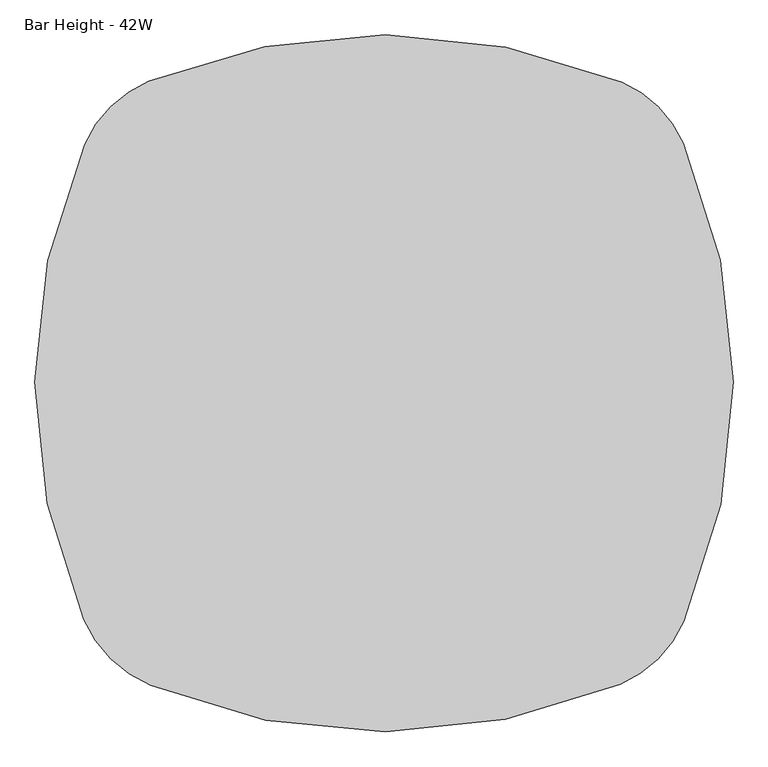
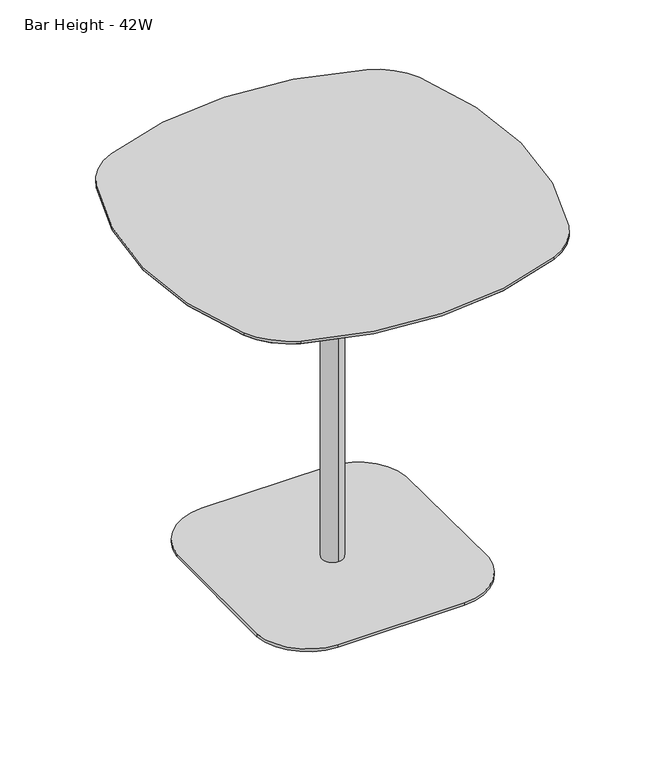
"""IFC4 building model written with IfcOpenShell, lengths in millimetres: furniture geometry, Steelcase Coalesse - Enea Lottus - Table - Cafe : Bar Height - 42W."""

import ifcopenshell
import ifcopenshell.guid

model = None  # the IFC model being written
_history = None  # IfcOwnerHistory: only IFC2X3 demands one
_inside = {}  # id of a spatial element -> (the spatial element, [elements in it])
_under = {}  # id of a project, library or spatial element -> (it, [spatial elements below it])
_declared = {}  # id of a project -> (the project, [libraries it declares])
_typed = {}  # id of a type object -> (the type object, [elements of that type])
_made_of = {}  # id of a material, layer set ... -> (it, [elements and type objects made of it])


def new_model(schema):
    """Start an empty IFC model of exactly this schema.

    Asked for "IFC4X3", IfcOpenShell would pick the latest addendum, in which some entities
    have other attributes; the version numbers below select the first issue.
    IFC2X3 requires an IfcOwnerHistory on every rooted entity: one is made here for all.
    """
    global model, _history
    if schema == "IFC4X3":
        model = ifcopenshell.file(schema_version=(4, 3, 0, 0))
    else:
        model = ifcopenshell.file(schema=schema)
    _inside.clear()
    _under.clear()
    _declared.clear()
    _typed.clear()
    _made_of.clear()
    _history = None
    if model.schema == "IFC2X3":
        org = make("IfcOrganization", Name="unknown")
        user = make(
            "IfcPersonAndOrganization",
            ThePerson=make("IfcPerson", FamilyName="unknown"),
            TheOrganization=org,
        )
        app = make(
            "IfcApplication",
            ApplicationDeveloper=org,
            Version="unknown",
            ApplicationFullName="unknown",
            ApplicationIdentifier="unknown",
        )
        _history = make(
            "IfcOwnerHistory",
            OwningUser=user,
            OwningApplication=app,
            ChangeAction="ADDED",
            CreationDate=0,
        )
    return model


def make(cls, **values):
    """One entity of the class cls with the attributes given. An attribute that is None is left unset."""
    return model.create_entity(
        cls, **{name: value for name, value in values.items() if value is not None}
    )


def rooted(cls, **values):
    """An entity with a GlobalId (a new one), such as an element, a storey or a relation."""
    return make(cls, GlobalId=ifcopenshell.guid.new(), OwnerHistory=_history, **values)


def si_unit(unit_type, name, prefix=None):
    """IfcSIUnit, for example si_unit("LENGTHUNIT", "METRE", prefix="MILLI")."""
    return make("IfcSIUnit", UnitType=unit_type, Prefix=prefix, Name=name)


def assignment(units):
    """IfcUnitAssignment: the units of a project."""
    return None if units is None else make("IfcUnitAssignment", Units=units)


def point(xyz):
    """IfcCartesianPoint."""
    return None if xyz is None else make("IfcCartesianPoint", Coordinates=xyz)


def direction(xyz):
    """IfcDirection."""
    return None if xyz is None else make("IfcDirection", DirectionRatios=xyz)


def frame(location, z_axis=None, x_axis=None):
    """IfcAxis2Placement3D, a coordinate frame: its origin and axes. An axis left out is left unset."""
    return make(
        "IfcAxis2Placement3D",
        Location=point(location),
        Axis=direction(z_axis),
        RefDirection=direction(x_axis),
    )


def frame_2d(location, x_axis=None):
    """IfcAxis2Placement2D, a coordinate frame in the plane: its origin and x axis."""
    return make(
        "IfcAxis2Placement2D", Location=point(location), RefDirection=direction(x_axis)
    )


def origin():
    """The frame at (0, 0, 0) with its axes left unset."""
    return frame((0.0, 0.0, 0.0))


def origin_with_axes():
    """The frame at (0, 0, 0) with the z axis (0, 0, 1) and the x axis (1, 0, 0) written out."""
    return frame((0.0, 0.0, 0.0), z_axis=(0.0, 0.0, 1.0), x_axis=(1.0, 0.0, 0.0))


def place(relative_to, where):
    """IfcLocalPlacement: puts the frame where relative to a parent placement (None: the world)."""
    return make(
        "IfcLocalPlacement", PlacementRelTo=relative_to, RelativePlacement=where
    )


def context(
    kind, dimensions, precision=None, world=None, true_north=None, identifier=None
):
    """IfcGeometricRepresentationContext, for example the 3D "Model" context."""
    return make(
        "IfcGeometricRepresentationContext",
        ContextIdentifier=identifier,
        ContextType=kind,
        CoordinateSpaceDimension=dimensions,
        Precision=precision,
        WorldCoordinateSystem=world,
        TrueNorth=true_north,
    )


def project(units=None, contexts=None):
    """IfcProject with its units and contexts."""
    return rooted(
        "IfcProject",
        Name="project",
        RepresentationContexts=contexts,
        UnitsInContext=assignment(units),
    )


def spatial(cls, under=None, at=None, **own):
    """A site, building, storey or space (cls), placed at a placement, below another one or the project."""
    s = rooted(cls, ObjectPlacement=at, **own)
    if under is not None:
        _under.setdefault(under.id(), (under, []))[1].append(s)
    return s


def polyline(points):
    """IfcPolyline through the points."""
    return make("IfcPolyline", Points=[point(p) for p in points])


def circle_curve(where, radius):
    """IfcCircle in the frame where."""
    return make("IfcCircle", Position=where, Radius=radius)


def trimmed(basis, trim1, trim2, sense, master):
    """IfcTrimmedCurve: the piece of a basis curve between two trims."""
    return make(
        "IfcTrimmedCurve",
        BasisCurve=basis,
        Trim1=trim1,
        Trim2=trim2,
        SenseAgreement=sense,
        MasterRepresentation=master,
    )


def segment(curve, same_sense, transition):
    """IfcCompositeCurveSegment."""
    return make(
        "IfcCompositeCurveSegment",
        Transition=transition,
        SameSense=same_sense,
        ParentCurve=curve,
    )


def composite_curve(segments, self_intersect=None):
    """IfcCompositeCurve: segments joined end to end."""
    return make("IfcCompositeCurve", Segments=segments, SelfIntersect=self_intersect)


def outline(outer, holes=None, kind="AREA"):
    """IfcArbitraryClosedProfileDef: a profile drawn as a closed curve; with holes, ...WithVoids."""
    if holes is None:
        return make("IfcArbitraryClosedProfileDef", ProfileType=kind, OuterCurve=outer)
    return make(
        "IfcArbitraryProfileDefWithVoids",
        ProfileType=kind,
        OuterCurve=outer,
        InnerCurves=holes,
    )


def extrude(swept, where, along, depth):
    """IfcExtrudedAreaSolid: the profile swept, set in the frame where, extruded along a direction by depth."""
    return make(
        "IfcExtrudedAreaSolid",
        SweptArea=swept,
        Position=where,
        ExtrudedDirection=direction(along),
        Depth=depth,
    )


def shape(context_of_items, identifier, shape_type, items):
    """IfcShapeRepresentation: the items that make up one representation, for example the "Body"."""
    return make(
        "IfcShapeRepresentation",
        ContextOfItems=context_of_items,
        RepresentationIdentifier=identifier,
        RepresentationType=shape_type,
        Items=items,
    )


def source(mapping_origin, context_of_items, identifier, shape_type, items):
    """IfcRepresentationMap: a shape defined once, which mapped items show again and again."""
    return make(
        "IfcRepresentationMap",
        MappingOrigin=mapping_origin,
        MappedRepresentation=shape(context_of_items, identifier, shape_type, items),
    )


def transform(
    local_origin,
    x_axis=None,
    y_axis=None,
    z_axis=None,
    scale=None,
    scale2=None,
    scale3=None,
    uniform=True,
):
    """IfcCartesianTransformationOperator3D, or its non-uniform kind. x_axis, y_axis, z_axis: its Axis1, 2, 3."""
    if uniform:
        return make(
            "IfcCartesianTransformationOperator3D",
            Axis1=direction(x_axis),
            Axis2=direction(y_axis),
            LocalOrigin=point(local_origin),
            Scale=scale,
            Axis3=direction(z_axis),
        )
    return make(
        "IfcCartesianTransformationOperator3DnonUniform",
        Axis1=direction(x_axis),
        Axis2=direction(y_axis),
        LocalOrigin=point(local_origin),
        Scale=scale,
        Axis3=direction(z_axis),
        Scale2=scale2,
        Scale3=scale3,
    )


def mapped(mapping_source, mapping_target):
    """IfcMappedItem: shows the shape of a source again, moved by a transform."""
    return make(
        "IfcMappedItem", MappingSource=mapping_source, MappingTarget=mapping_target
    )


def made_of(thing, what):
    """Note that an element or type object is made of a material, layer set ...; save() writes the relation."""
    if what is not None:
        _made_of.setdefault(what.id(), (what, []))[1].append(thing)
    return thing


def element(
    cls,
    number,
    at=None,
    inside=None,
    cuts=None,
    type_object=None,
    material=None,
    context=None,
    identifier="Body",
    shape_type=None,
    held_by="IfcProductDefinitionShape",
    body=None,
    shapes=None,
    **own,
):
    """One element of the class cls, such as IfcWall. Its Tag is "e" and its number.

    at: its placement. inside: the storey or other place that contains it. cuts: it is an
    opening in that element (IfcRelVoidsElement). A single representation is given by context,
    identifier, shape_type and body (its items); several are given by shapes. held_by: the class
    of the entity that holds the representations. save() writes the other relations.
    """
    e = rooted(cls, Tag="e%d" % number, ObjectPlacement=at, **own)
    if body is not None:
        shapes = [shape(context, identifier, shape_type, body)]
    if shapes is not None:
        e.Representation = make(held_by, Representations=shapes)
    if inside is not None:
        _inside.setdefault(inside.id(), (inside, []))[1].append(e)
    if cuts is not None:
        rooted(
            "IfcRelVoidsElement", RelatingBuildingElement=cuts, RelatedOpeningElement=e
        )
    if type_object is not None:
        _typed.setdefault(type_object.id(), (type_object, []))[1].append(e)
    return made_of(e, material)


def aggregate(whole, parts):
    """IfcRelAggregates: a whole, such as a stair, and the parts it consists of."""
    return rooted("IfcRelAggregates", RelatingObject=whole, RelatedObjects=parts)


def save(model, path):
    """Write the relations noted so far, then the file.

    IfcRelAggregates (storeys below a building ...), IfcRelContainedInSpatialStructure (elements
    in a storey), IfcRelDefinesByType, IfcRelAssociatesMaterial and IfcRelDeclares: one each for
    every whole, place, type object, material and project.
    """
    for whole, parts in _under.values():
        aggregate(whole, parts)
    for where, things in _inside.values():
        rooted(
            "IfcRelContainedInSpatialStructure",
            RelatedElements=things,
            RelatingStructure=where,
        )
    for kind, things in _typed.values():
        rooted("IfcRelDefinesByType", RelatedObjects=things, RelatingType=kind)
    for what, things in _made_of.values():
        rooted("IfcRelAssociatesMaterial", RelatedObjects=things, RelatingMaterial=what)
    for by, libraries in _declared.values():
        rooted("IfcRelDeclares", RelatingContext=by, RelatedDefinitions=libraries)
    model.write(path)


def plane_surface(at):
    """IfcPlane: the flat surface through the origin of the frame at, square to its z axis."""
    return make("IfcPlane", Position=at)


def cylinder_surface(at, radius):
    """IfcCylindricalSurface: all points at the distance radius from the z axis of the frame at."""
    return make("IfcCylindricalSurface", Position=at, Radius=radius)


def revolved_surface(curve, axis_point, axis_direction):
    """IfcSurfaceOfRevolution: the curve turned about the line through axis_point along axis_direction."""
    return make(
        "IfcSurfaceOfRevolution",
        SweptCurve=make("IfcArbitraryOpenProfileDef", ProfileType="CURVE", Curve=curve),
        AxisPosition=make("IfcAxis1Placement", Location=point(axis_point), Axis=direction(axis_direction)),
    )


def advanced_brep(points, edges, surfaces, faces):
    """IfcAdvancedBrep: a solid bounded by faces that lie on surfaces and meet in shared edges.

    An edge is (start, end): straight between two places in points (the first is 0);
    or (start, end, curve); or (start, end, curve, False) where it runs against its curve.
    A face is (place in surfaces, loops), or (place, loops, False) where it looks against
    its surface's normal. A loop lists edges by number (the first is 1), with a minus sign
    where the edge is run from its end to its start. The first loop is the outer one.
    """
    corners = [point(p) for p in points]
    vertices = [make("IfcVertexPoint", VertexGeometry=c) for c in corners]
    made = []
    for start, end, *more in edges:
        made.append(
            make(
                "IfcEdgeCurve",
                EdgeStart=vertices[start],
                EdgeEnd=vertices[end],
                EdgeGeometry=more[0] if more else make("IfcPolyline", Points=[corners[start], corners[end]]),
                SameSense=more[1] if len(more) > 1 else True,
            )
        )
    hull = []
    for where, loops, *sense in faces:
        bounds = []
        for j, loop in enumerate(loops):
            ring = [make("IfcOrientedEdge", EdgeElement=made[abs(k) - 1], Orientation=k > 0) for k in loop]
            bounds.append(
                make(
                    "IfcFaceOuterBound" if j == 0 else "IfcFaceBound",
                    Bound=make("IfcEdgeLoop", EdgeList=ring),
                    Orientation=True,
                )
            )
        hull.append(make("IfcAdvancedFace", Bounds=bounds, FaceSurface=surfaces[where], SameSense=sense[0] if sense else True))
    return make("IfcAdvancedBrep", Outer=make("IfcClosedShell", CfsFaces=hull))


def bar_height_42w_7da4a0c7(model_context):
    return source(origin(), model_context, "Body", "SolidModel", [
        advanced_brep(
        [(533.4, -563.2613798, 1030.4223999), (533.4, -503.5386202, 1030.4223999), (533.4, -356.9080839, 1051.1439789), (533.4, -709.8919161, 1051.1439789), (533.4, -533.4, 1030.4223999), (533.4, -709.8919161, 1054.0282142), (533.4, -356.9080839, 1054.0282142), (533.4, -533.4, 1054.0282142)],
        [
            (0, 1, circle_curve(frame((533.4, -533.4, 1030.4223999), z_axis=(0.0, 0.0, 1.0), x_axis=(0.0, 1.0, 0.0)), 29.8613798)),
            (1, 2),
            (2, 3, circle_curve(frame((533.4, -533.4, 1051.1439789), z_axis=(0.0, 0.0, -1.0), x_axis=(0.0, 1.0, 0.0)), 176.4919161)),
            (3, 0),
            (1, 0, circle_curve(frame((533.4, -533.4, 1030.4223999), z_axis=(0.0, 0.0, 1.0), x_axis=(0.0, 1.0, 0.0)), 29.8613798)),
            (3, 2, circle_curve(frame((533.4, -533.4, 1051.1439789), z_axis=(0.0, 0.0, -1.0), x_axis=(0.0, 1.0, 0.0)), 176.4919161)),
            (4, 1),
            (0, 4),
            (5, 6, circle_curve(frame((533.4, -533.4, 1054.0282142), z_axis=(0.0, 0.0, 1.0), x_axis=(0.0, 1.0, 0.0)), 176.4919161)),
            (6, 7),
            (7, 5),
            (6, 5, circle_curve(frame((533.4, -533.4, 1054.0282142), z_axis=(0.0, 0.0, 1.0), x_axis=(0.0, 1.0, 0.0)), 176.4919161)),
            (2, 6),
            (5, 3),
        ],
        [
            revolved_surface(polyline([(533.4, -356.9080839, 1051.1439789), (533.4, -503.5386202, 1030.4223999)]), (533.4, -533.4, 1042.225307), (0.0, 0.0, -1.0)),
            plane_surface(frame((533.4, -533.4, 1030.4223999), z_axis=(0.0, 0.0, -1.0), x_axis=(0.0, 1.0, 0.0))),
            plane_surface(frame((533.4, -533.4, 1054.0282142), z_axis=(0.0, 0.0, 1.0), x_axis=(0.0, 1.0, 0.0))),
            cylinder_surface(frame((533.4, -533.4, 1042.225307), z_axis=(0.0, 0.0, -1.0), x_axis=(0.0, 1.0, 0.0)), 176.4919161),
        ],
        [
            (0, [[1, 2, 3, 4]]),
            (0, [[5, -4, 6, -2]]),
            (1, [[7, -1, 8]]),
            (1, [[-8, -5, -7]]),
            (2, [[9, 10, 11]]),
            (2, [[12, -11, -10]]),
            (3, [[-3, 13, -9, 14]]),
            (3, [[-6, -14, -12, -13]]),
        ],
    ),
        extrude(outline(composite_curve([segment(trimmed(circle_curve(frame_2d((533.4002907, -132.0971576)), 934.4798328), [point((894.0788189, -994.1665036))], [point((176.4279712, -995.7077881))], False, "CARTESIAN"), True, "CONTINUOUS"), segment(trimmed(circle_curve(frame_2d((249.1991799, -819.6549517)), 190.5), [point((176.4279712, -995.7077881))], [point((74.2852347, -895.1225724))], False, "CARTESIAN"), True, "CONTINUOUS"), segment(trimmed(circle_curve(frame_2d((912.6618205, -533.4002059)), 913.0817982), [point((74.2852347, -895.1225724))], [point((75.6122215, -168.6176147))], False, "CARTESIAN"), True, "CONTINUOUS"), segment(trimmed(circle_curve(frame_2d((243.9625421, -241.9839555)), 183.6421804), [point((75.6122215, -168.6176147))], [point((173.954065, -72.2098009))], False, "CARTESIAN"), True, "CONTINUOUS"), segment(trimmed(circle_curve(frame_2d((533.4002422, -943.8852526)), 942.8783842), [point((173.954065, -72.2098009))], [point((896.1434301, -73.5766711))], False, "CARTESIAN"), True, "CONTINUOUS"), segment(trimmed(circle_curve(frame_2d((828.0206012, -237.0198029)), 177.0716724), [point((896.1434301, -73.5766711))], [point((990.4141681, -166.4315138))], False, "CARTESIAN"), True, "CONTINUOUS"), segment(trimmed(circle_curve(frame_2d((146.4765745, -533.2693878)), 920.2177394), [point((990.4141681, -166.4315138))], [point((991.3180264, -898.0208223))], False, "CARTESIAN"), True, "CONTINUOUS"), segment(trimmed(circle_curve(frame_2d((823.5476668, -825.5877295)), 182.7387383), [point((991.3180264, -898.0208223))], [point((894.0788189, -994.1665036))], False, "CARTESIAN"), True, "CONTINUOUS")], self_intersect=False)), frame((0.0, 0.0, 1059.247009), z_axis=(0.0, 0.0, 1.0), x_axis=(1.0, 0.0, 0.0)), (0.0, 0.0, 1.0), 7.552991),
        advanced_brep(
        [(889.1770359, -982.4505945, 1054.0282142), (181.2793852, -983.9709323, 1054.0282142), (85.9461643, -890.0913977, 1054.0282142), (87.2546942, -173.6913539, 1054.0282142), (178.795587, -83.9507406, 1054.0282142), (891.2574994, -85.2991999, 1054.0282142), (978.7669166, -171.4942732, 1054.0282142), (979.6583007, -892.986858, 1054.0282142), (894.0788189, -994.1665036, 1059.247009), (991.3180264, -898.0208223, 1059.247009), (990.4141681, -166.4315138, 1059.247009), (896.1434301, -73.5766711, 1059.247009), (173.954065, -72.2098009, 1059.247009), (75.6122215, -168.6176147, 1059.247009), (74.2852347, -895.1225724, 1059.247009), (176.4279712, -995.7077881, 1059.247009)],
        [
            (0, 1, circle_curve(frame((533.4002907, -132.0971576, 1054.0282142), z_axis=(0.0, 0.0, -1.0), x_axis=(0.385967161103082, -0.9225125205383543, 0.0)), 921.7798328)),
            (1, 2, circle_curve(frame((249.1991799, -819.6549517, 1054.0282142), z_axis=(0.0, 0.0, -1.0), x_axis=(-0.38200109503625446, -0.9241618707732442, 0.0)), 177.8)),
            (2, 3, circle_curve(frame((912.6618205, -533.4002059, 1054.0282142), z_axis=(0.0, 0.0, -1.0), x_axis=(-0.9181834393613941, -0.396155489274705, 0.0)), 900.3817982)),
            (3, 4, circle_curve(frame((243.9625421, -241.9839555, 1054.0282142), z_axis=(0.0, 0.0, -1.0), x_axis=(-0.916730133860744, 0.3995070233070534, 0.0)), 170.9421804)),
            (4, 5, circle_curve(frame((533.4002422, -943.8852526, 1054.0282142), z_axis=(0.0, 0.0, -1.0), x_axis=(-0.3812222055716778, 0.9244834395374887, 0.0)), 930.1783842)),
            (5, 6, circle_curve(frame((828.0206012, -237.0198029, 1054.0282142), z_axis=(0.0, 0.0, -1.0), x_axis=(0.3847189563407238, 0.9230337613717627, 0.0)), 164.3716724)),
            (6, 7, circle_curve(frame((146.4765745, -533.2693878, 1054.0282142), z_axis=(0.0, 0.0, -1.0), x_axis=(0.9171064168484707, 0.39864247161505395, 0.0)), 907.5177394)),
            (7, 0, circle_curve(frame((823.5476668, -825.5877295, 1054.0282142), z_axis=(0.0, 0.0, -1.0), x_axis=(0.9180886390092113, -0.3963751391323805, 0.0)), 170.0387383)),
            (8, 9, circle_curve(frame((823.5476668, -825.5877295, 1059.247009), z_axis=(0.0, 0.0, 1.0), x_axis=(0.9180886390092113, -0.3963751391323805, 0.0)), 182.7387383)),
            (9, 10, circle_curve(frame((146.4765745, -533.2693878, 1059.247009), z_axis=(0.0, 0.0, 1.0), x_axis=(0.9171064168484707, 0.39864247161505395, 0.0)), 920.2177394)),
            (10, 11, circle_curve(frame((828.0206012, -237.0198029, 1059.247009), z_axis=(0.0, 0.0, 1.0), x_axis=(0.3847189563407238, 0.9230337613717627, 0.0)), 177.0716724)),
            (11, 12, circle_curve(frame((533.4002422, -943.8852526, 1059.247009), z_axis=(0.0, 0.0, 1.0), x_axis=(-0.3812222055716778, 0.9244834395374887, 0.0)), 942.8783842)),
            (12, 13, circle_curve(frame((243.9625421, -241.9839555, 1059.247009), z_axis=(0.0, 0.0, 1.0), x_axis=(-0.916730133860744, 0.3995070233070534, 0.0)), 183.6421804)),
            (13, 14, circle_curve(frame((912.6618205, -533.4002059, 1059.247009), z_axis=(0.0, 0.0, 1.0), x_axis=(-0.9181834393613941, -0.396155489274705, 0.0)), 913.0817982)),
            (14, 15, circle_curve(frame((249.1991799, -819.6549517, 1059.247009), z_axis=(0.0, 0.0, 1.0), x_axis=(-0.38200109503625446, -0.9241618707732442, 0.0)), 190.5)),
            (15, 8, circle_curve(frame((533.4002907, -132.0971576, 1059.247009), z_axis=(0.0, 0.0, 1.0), x_axis=(0.385967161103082, -0.9225125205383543, 0.0)), 934.4798328)),
            (15, 1),
            (0, 8),
            (14, 2),
            (13, 3),
            (12, 4),
            (11, 5),
            (10, 6),
            (9, 7),
        ],
        [
            plane_surface(frame((534.0169479, -532.9919188, 1054.0282142), z_axis=(0.0, 0.0, -1.0), x_axis=(0.9225125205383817, 0.38596716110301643, 0.0))),
            plane_surface(frame((534.029242, -532.9816609, 1059.247009), z_axis=(0.0, 0.0, 1.0), x_axis=(0.9225125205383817, 0.38596716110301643, 0.0))),
            revolved_surface(polyline([(889.1770359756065, -982.4505946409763, 1054.0282142), (894.0788189, -994.1665035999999, 1059.247009)]), (533.4002907, -132.0971576, 675.2424016), (0.0, 0.0, 1.0)),
            revolved_surface(polyline([(181.27938509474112, -983.9709323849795, 1054.0282142), (176.4279712, -995.7077881, 1059.247009)]), (249.1991799, -819.6549517, 980.9650867), (0.0, 0.0, 1.0)),
            revolved_surface(polyline([(85.94616432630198, -890.0913977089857, 1054.0282142), (74.28523470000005, -895.1225724, 1059.247009)]), (912.6618205, -533.4002059, 684.0354687), (0.0, 0.0, 1.0)),
            revolved_surface(polyline([(87.25469414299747, -173.69135386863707, 1054.0282142), (75.6122215, -168.6176147, 1059.247009)]), (243.9625421, -241.9839555, 983.7831617), (0.0, 0.0, 1.0)),
            revolved_surface(polyline([(178.79558698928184, -83.95074053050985, 1054.0282142), (173.954065, -72.2098009, 1059.247009)]), (533.4002422, -943.8852526, 671.7911956), (0.0, 0.0, 1.0)),
            revolved_surface(polyline([(891.2574993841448, -85.29919981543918, 1054.0282142), (896.1434301, -73.5766711, 1059.247009)]), (828.0206012, -237.0198029, 986.4831722), (0.0, 0.0, 1.0)),
            revolved_surface(polyline([(978.7669166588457, -171.49427316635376, 1054.0282142), (990.4141681, -166.4315138, 1059.247009)]), (146.4765745, -533.2693878, 681.1031055), (0.0, 0.0, 1.0)),
            revolved_surface(polyline([(979.6583007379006, -892.9868580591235, 1054.0282142), (991.3180264, -898.0208223, 1059.247009)]), (823.5476668, -825.5877295, 984.154412), (0.0, 0.0, 1.0)),
        ],
        [
            (0, [[1, 2, 3, 4, 5, 6, 7, 8]]),
            (1, [[9, 10, 11, 12, 13, 14, 15, 16]]),
            (2, [[-16, 17, -1, 18]]),
            (3, [[-15, 19, -2, -17]]),
            (4, [[-14, 20, -3, -19]]),
            (5, [[-13, 21, -4, -20]]),
            (6, [[-12, 22, -5, -21]]),
            (7, [[-11, 23, -6, -22]]),
            (8, [[-10, 24, -7, -23]]),
            (9, [[-9, -18, -8, -24]]),
        ],
    ),
        extrude(outline(composite_curve([segment(trimmed(circle_curve(frame_2d((290.3573668, -290.3557788)), 14.5931535), [point((304.9505203, -290.3557788))], [point((275.7642134, -290.3557788))], False, "CARTESIAN"), True, "CONTINUOUS"), segment(trimmed(circle_curve(frame_2d((290.3573668, -290.3557788)), 14.5931535), [point((275.7642134, -290.3557788))], [point((304.9505203, -290.3557788))], False, "CARTESIAN"), True, "CONTINUOUS")], self_intersect=False)), origin_with_axes(), (0.0, 0.0, 1.0), 12.0681503),
        extrude(outline(composite_curve([segment(trimmed(circle_curve(frame_2d((776.4426332, -290.3557788)), 14.5931535), [point((791.0357866, -290.3557788))], [point((761.8494797, -290.3557788))], False, "CARTESIAN"), True, "CONTINUOUS"), segment(trimmed(circle_curve(frame_2d((776.4426332, -290.3557788)), 14.5931535), [point((761.8494797, -290.3557788))], [point((791.0357866, -290.3557788))], False, "CARTESIAN"), True, "CONTINUOUS")], self_intersect=False)), origin_with_axes(), (0.0, 0.0, 1.0), 12.0681503),
        extrude(outline(composite_curve([segment(trimmed(circle_curve(frame_2d((290.3573668, -776.4442212)), 14.5931535), [point((304.9505203, -776.4442212))], [point((275.7642134, -776.4442212))], False, "CARTESIAN"), True, "CONTINUOUS"), segment(trimmed(circle_curve(frame_2d((290.3573668, -776.4442212)), 14.5931535), [point((275.7642134, -776.4442212))], [point((304.9505203, -776.4442212))], False, "CARTESIAN"), True, "CONTINUOUS")], self_intersect=False)), origin_with_axes(), (0.0, 0.0, 1.0), 12.0681503),
        extrude(outline(composite_curve([segment(trimmed(circle_curve(frame_2d((776.4426332, -776.4442212)), 14.5931535), [point((791.0357866, -776.4442212))], [point((761.8494797, -776.4442212))], False, "CARTESIAN"), True, "CONTINUOUS"), segment(trimmed(circle_curve(frame_2d((776.4426332, -776.4442212)), 14.5931535), [point((761.8494797, -776.4442212))], [point((791.0357866, -776.4442212))], False, "CARTESIAN"), True, "CONTINUOUS")], self_intersect=False)), origin_with_axes(), (0.0, 0.0, 1.0), 12.0681503),
        extrude(outline(composite_curve([segment(trimmed(circle_curve(frame_2d((713.1607189, -344.3533124)), 146.05), [point((715.9264288, -198.3295015))], [point((858.4001859, -328.9877752))], False, "CARTESIAN"), True, "CONTINUOUS"), segment(trimmed(circle_curve(frame_2d((-1169.1172342, -543.4879728)), 2038.8323187), [point((858.4001859, -328.9877752))], [point((861.1554242, -730.1163632))], False, "CARTESIAN"), True, "CONTINUOUS"), segment(trimmed(circle_curve(frame_2d((709.3952474, -716.1661396)), 152.4), [point((861.1554242, -730.1163632))], [point((712.2203938, -868.5399515))], False, "CARTESIAN"), True, "CONTINUOUS"), segment(trimmed(circle_curve(frame_2d((540.0481103, 8417.5442651)), 9287.6801932), [point((712.2203938, -868.5399515))], [point((354.3338209, -868.2789927))], False, "CARTESIAN"), True, "CONTINUOUS"), segment(trimmed(circle_curve(frame_2d((357.3811758, -715.9094628)), 152.4), [point((354.3338209, -868.2789927))], [point((205.6190943, -729.8389502))], False, "CARTESIAN"), True, "CONTINUOUS"), segment(trimmed(circle_curve(frame_2d((2235.9172342, -543.4879728)), 2038.8323187), [point((205.6190943, -729.8389502))], [point((207.743094, -335.2888363))], False, "CARTESIAN"), True, "CONTINUOUS"), segment(trimmed(circle_curve(frame_2d((359.3464093, -350.8514445)), 152.4), [point((207.743094, -335.2888363))], [point((356.3318396, -198.4812624))], False, "CARTESIAN"), True, "CONTINUOUS"), segment(trimmed(circle_curve(frame_2d((540.0481103, -9484.3442651)), 9287.6801932), [point((356.3318396, -198.4812624))], [point((715.9264288, -198.3295015))], False, "CARTESIAN"), True, "CONTINUOUS")], self_intersect=False)), frame((0.0, 0.0, 12.0681503), z_axis=(0.0, 0.0, 1.0), x_axis=(1.0, 0.0, 0.0)), (0.0, 0.0, 1.0), 7.874),
        extrude(outline(composite_curve([segment(trimmed(circle_curve(frame_2d((533.4, -533.4)), 29.8613798), [point((533.4, -563.2613798))], [point((533.4, -503.5386202))], False, "CARTESIAN"), True, "CONTINUOUS"), segment(trimmed(circle_curve(frame_2d((533.4, -533.4)), 29.8613798), [point((533.4, -503.5386202))], [point((533.4, -563.2613798))], False, "CARTESIAN"), True, "CONTINUOUS")], self_intersect=False)), frame((0.0, 0.0, 19.9421503), z_axis=(0.0, 0.0, 1.0), x_axis=(1.0, 0.0, 0.0)), (0.0, 0.0, 1.0), 1010.4802496),
    ])


if __name__ == "__main__":
    model = new_model("IFC4")
    model_context = context("Model", 3, world=origin())
    ifc_project = project(units=[si_unit("LENGTHUNIT", "METRE", prefix="MILLI")], contexts=[model_context])
    site = spatial("IfcSite", under=ifc_project)
    building = spatial("IfcBuilding", under=site)
    placement = place(None, origin())
    bar_height_42w_shape = bar_height_42w_7da4a0c7(model_context)
    element("IfcFurniture", 1, ObjectType="Steelcase Coalesse - Enea Lottus - Table - Cafe : Bar Height - 42W", at=placement, inside=building, context=model_context, shape_type="MappedRepresentation", body=[
        mapped(bar_height_42w_shape, transform((0.0, 0.0, 0.0), x_axis=(1.0, 0.0, 0.0), y_axis=(0.0, 1.0, 0.0), z_axis=(0.0, 0.0, 1.0))),
    ])
    save(model, "model.ifc")
